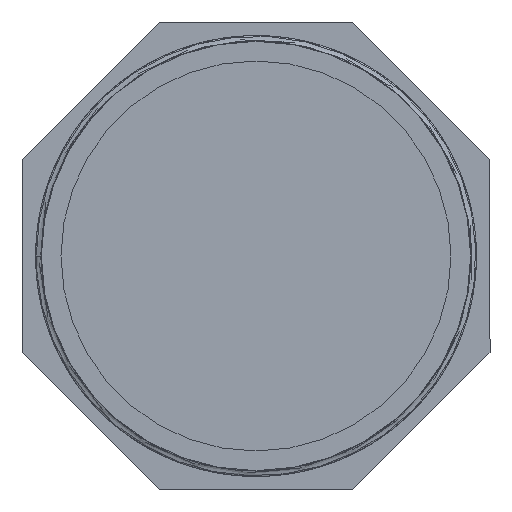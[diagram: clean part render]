
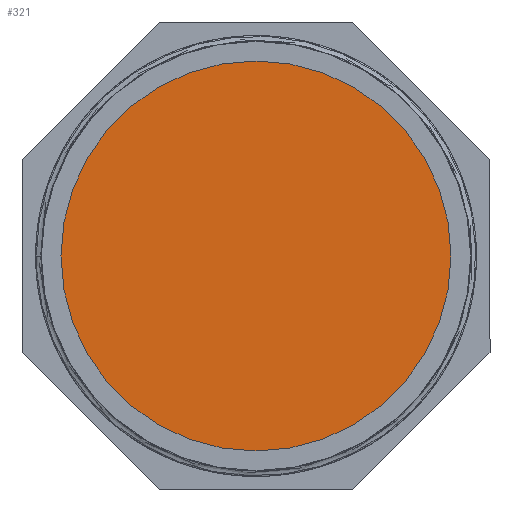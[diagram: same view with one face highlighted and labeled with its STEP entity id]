
A CAD part, front view. The second image highlights one B-rep face of the part: STEP entity #321.
In plain terms, the highlighted planar face has unit normal (0, -1, 0).
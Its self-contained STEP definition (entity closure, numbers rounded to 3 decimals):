
#22=PLANE('',#342);
#37=CIRCLE('',#343,50.);
#47=FACE_OUTER_BOUND('',#68,.T.);
#68=EDGE_LOOP('',(#263));
#166=VERTEX_POINT('',#7902);
#202=EDGE_CURVE('',#166,#166,#37,.T.);
#263=ORIENTED_EDGE('',*,*,#202,.F.);
#321=ADVANCED_FACE('',(#47),#22,.T.);
#342=AXIS2_PLACEMENT_3D('',#7901,#383,#384);
#343=AXIS2_PLACEMENT_3D('',#7903,#385,#386);
#383=DIRECTION('center_axis',(0.,-1.,0.));
#384=DIRECTION('ref_axis',(0.,0.,-1.));
#385=DIRECTION('center_axis',(0.,1.,0.));
#386=DIRECTION('ref_axis',(1.,0.,0.));
#7901=CARTESIAN_POINT('Origin',(0.,44.,0.));
#7902=CARTESIAN_POINT('',(-50.,44.,0.));
#7903=CARTESIAN_POINT('Origin',(0.,44.,0.));
